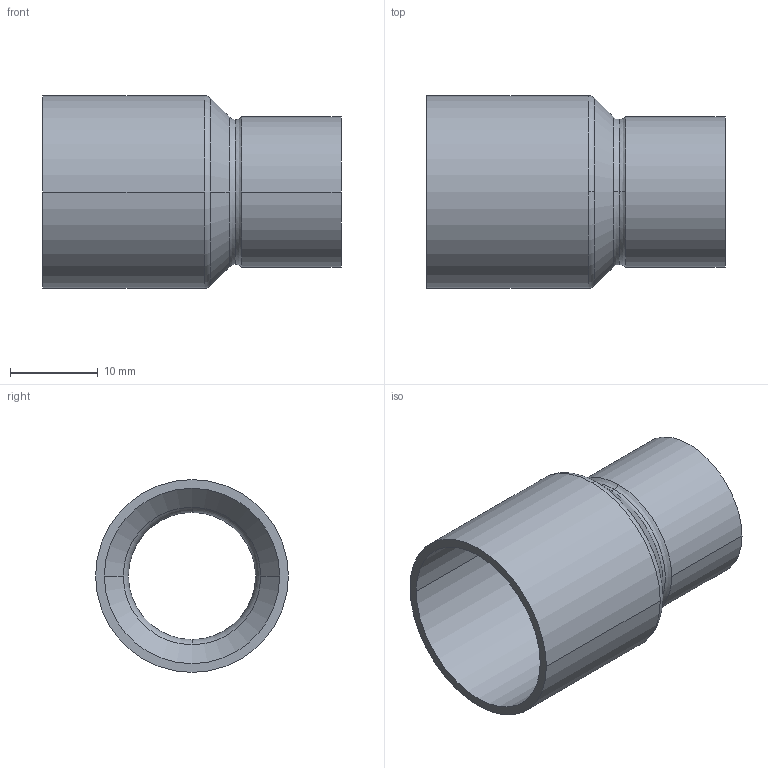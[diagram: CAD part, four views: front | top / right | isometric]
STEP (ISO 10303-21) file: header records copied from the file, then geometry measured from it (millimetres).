
FILE_DESCRIPTION((''),'2;1');
FILE_NAME('G:\Technics\CAD\Bauteile\Serie 15243\152432215.stp','2005-10-21T12:49:37',('boden'),(''),'Autodesk Inventor 8','Autodesk Inventor 8','');
FILE_SCHEMA(('AUTOMOTIVE_DESIGN { 1 0 10303 214 1 1 1 1 }'));
Length unit declared in the file: millimetre
Products named in the file (1): 152432215
Bounding box: 34 x 22 x 22 mm (x, y, z)
Volume: 2086.6 mm3; surface area: 4290 mm2
Topology: 1 solids, 1 shells, 24 faces, 60 edges, 38 vertices
Faces by surface type: cylinder 8, torus 6, bspline 4, cone 4, plane 2
Entity records: 931 total; most frequent: CARTESIAN_POINT 299, DIRECTION 150, ORIENTED_EDGE 120, AXIS2_PLACEMENT_3D 69, EDGE_CURVE 60, CIRCLE 48, VERTEX_POINT 38, EDGE_LOOP 26
